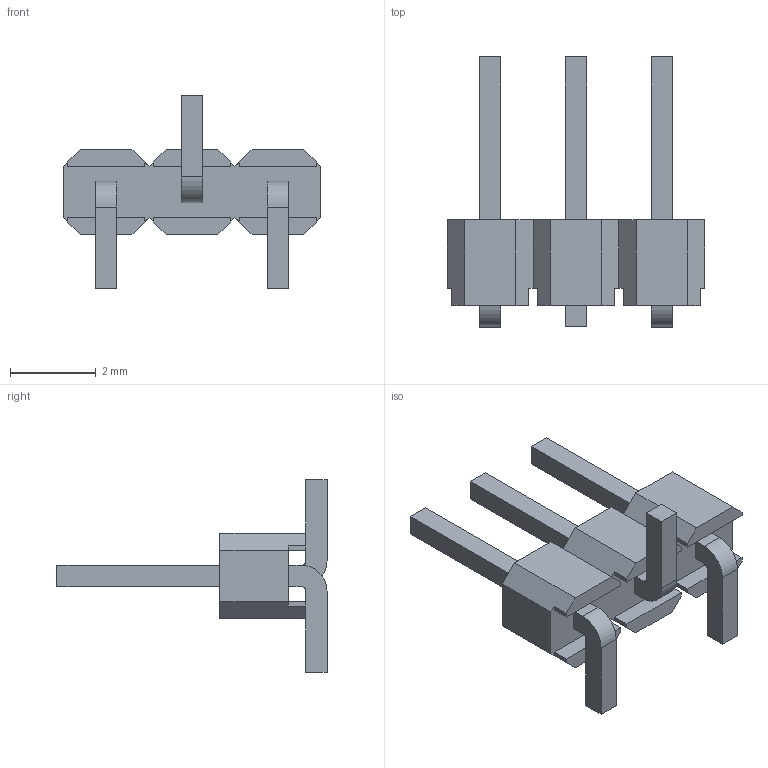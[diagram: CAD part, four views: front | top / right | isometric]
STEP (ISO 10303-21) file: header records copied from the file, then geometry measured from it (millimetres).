
FILE_DESCRIPTION (( 'STEP AP203' ), '1' );
FILE_NAME ('PZ200-1-03-S-2.0-XX-2(L6.3) (2.00 等齬 齬渀 泂え 呿詢2.0-HCTL).STEP', '2026-02-26T10:12:56', ( '' ), ( '' ), 'SwSTEP 2.0', 'SolidWorks 2025', '' );
FILE_SCHEMA (( 'CONFIG_CONTROL_DESIGN' ));
Length unit declared in the file: millimetre
Products named in the file (1): PZ200-1-03-S-2.0-XX-2(L6.3) (2.00 单排 排针 贴片 塑高2.0-HCTL)
Bounding box: 6 x 6.3 x 4.5 mm (x, y, z)
Volume: 24.1 mm3; surface area: 96.1 mm2
Topology: 1 solids, 1 shells, 94 faces, 264 edges, 172 vertices
Faces by surface type: plane 88, cylinder 6
Entity records: 3053 total; most frequent: CARTESIAN_POINT 531, ORIENTED_EDGE 528, DIRECTION 466, EDGE_CURVE 264, LINE 252, VECTOR 252, VERTEX_POINT 172, AXIS2_PLACEMENT_3D 107
